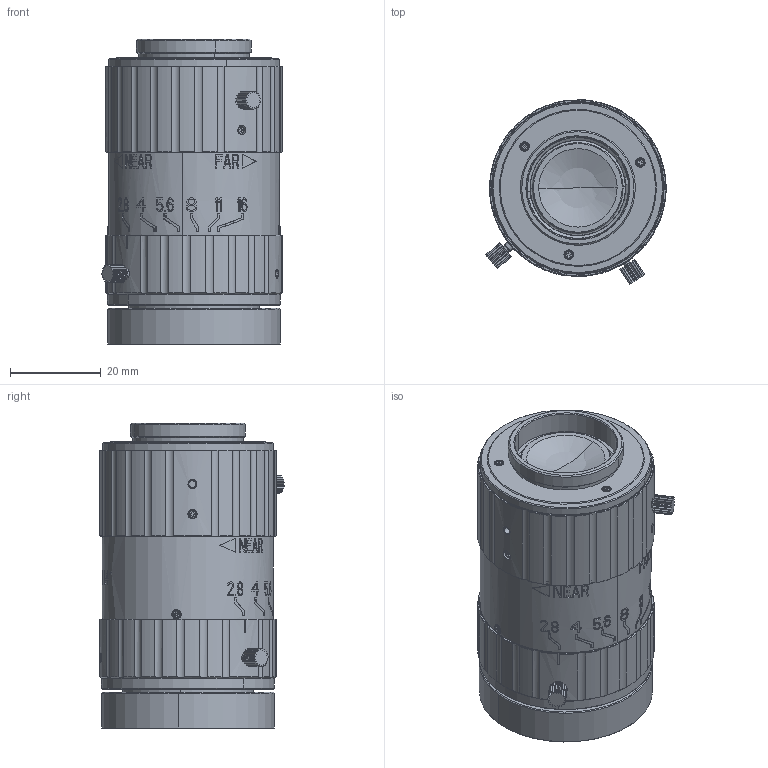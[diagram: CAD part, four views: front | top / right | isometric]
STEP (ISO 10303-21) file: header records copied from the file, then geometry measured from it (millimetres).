
FILE_DESCRIPTION((''),'2;1');
FILE_NAME('C-FA3545A-200_ASM_ASM','2022-07-25T16:07:49',('Administrator'),(''),'CREO PARAMETRIC BY PTC INC, 2018020','CREO PARAMETRIC BY PTC INC, 2018020','');
FILE_SCHEMA(('CONFIG_CONTROL_DESIGN'));
Products named in the file (26): GB4656A-503_2; GB4656A-501_4; MB5MP-02-04_000_1; MA117-02-16_1; MA117-01-08_ASM_1_ASM; GB4656A-535_ASM_1_ASM; GB4656A-536_1; GB4656A-537_1; GB4656A-301_2; GB4656A-511_1; C-FA3545A-201_ASM_5_ASM; GB4656A-312_1; GB4656A-518_2; C-FA3545A-202_ASM_4_ASM; GB4656A-504_3; FA1215A-521_3; GB4656A-506_7; ML7510A-522_1; M14402001_2; GB4656A-508_4; M14252001_3; M14352001_3; GB4656A-509_1; FA3502A-531_7; C-FA3545A-200_ASM_14_ASM; C-FA3545A-200_ASM_ASM
Assembly tree (47 placements, depth 6):
  C-FA3545A-200_ASM_ASM
    C-FA3545A-200_ASM_14_ASM
      GB4656A-503_2
      C-FA3545A-201_ASM_5_ASM
        GB4656A-501_4
        GB4656A-535_ASM_1_ASM  x5
          MA117-01-08_ASM_1_ASM
            MB5MP-02-04_000_1  x2
            MA117-02-16_1
        GB4656A-536_1
        GB4656A-537_1
        GB4656A-301_2
        GB4656A-511_1
      C-FA3545A-202_ASM_4_ASM
        GB4656A-312_1
        GB4656A-518_2
      GB4656A-504_3
      FA1215A-521_3
      GB4656A-506_7
      ML7510A-522_1  x6
      M14402001_2  x9
      GB4656A-508_4
      M14252001_3  x3
      M14352001_3  x2
      GB4656A-509_1
      FA3502A-531_7  x2
Bounding box: 39.84 x 40.8 x 67.56 mm (x, y, z)
Volume: 34103 mm3; surface area: 44745.3 mm2
Topology: 50 solids, 64 shells, 2435 faces, 6320 edges, 4113 vertices
Faces by surface type: plane 902, cylinder 659, bspline 459, cone 347, torus 60, sphere 8
Entity records: 72013 total; most frequent: CARTESIAN_POINT 28103, ORIENTED_EDGE 9774, DIRECTION 7846, EDGE_CURVE 4926, VERTEX_POINT 3254, AXIS2_PLACEMENT_3D 2933, EDGE_LOOP 2024, VECTOR 1980
